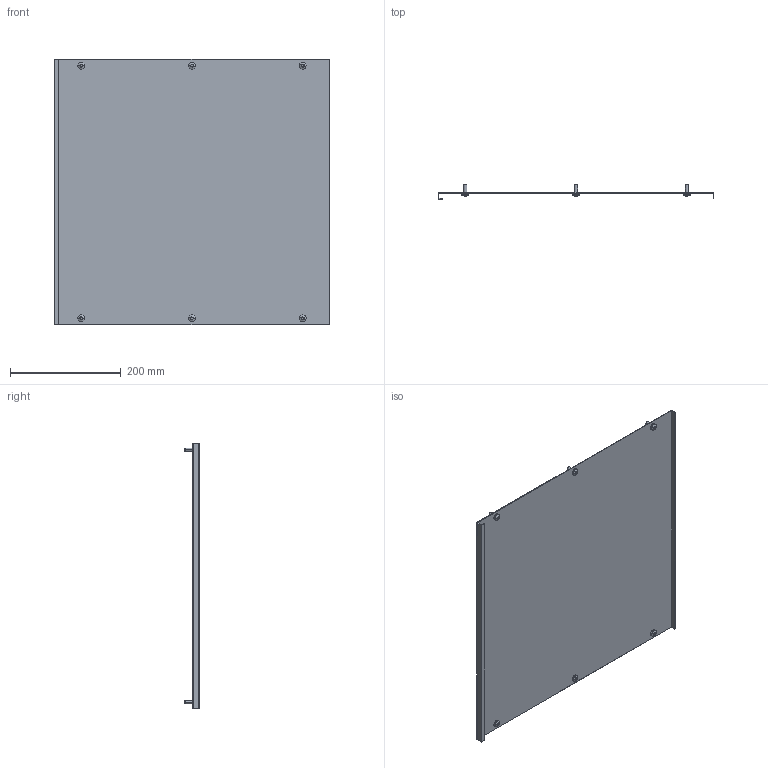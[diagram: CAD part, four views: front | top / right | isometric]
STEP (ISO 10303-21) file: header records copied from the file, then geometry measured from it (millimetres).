
FILE_DESCRIPTION (( 'STEP AP214' ), '1' );
FILE_NAME ('FO-00-PVS-050-060 Ïëàñòðîí ãëóõîé âíóòðåííèé 500õ600.STEP', '2025-09-30T07:40:12', ( '' ), ( '' ), 'SwSTEP 2.0', 'SolidWorks 2023', '' );
FILE_SCHEMA (( 'AUTOMOTIVE_DESIGN' ));
Length unit declared in the file: millimetre
Products named in the file (3): FO-00-PVS-050-060 Пластрон глухой внутренний 500х600; Винт M6x16 050 IEK
Assembly tree (3 placements, depth 2):
  FO-00-PVS-050-060 Пластрон глухой внутренний 500х600
    FO-00-PVS-050-060 Пластрон глухой внутренний 500х600
    Винт M6x16 050 IEK  x2
Bounding box: 498 x 27 x 479 mm (x, y, z)
Volume: 380760.8 mm3; surface area: 508574.7 mm2
Topology: 7 solids, 7 shells, 214 faces, 558 edges, 364 vertices
Faces by surface type: cylinder 132, plane 52, cone 18, bspline 12
Entity records: 4464 total; most frequent: CARTESIAN_POINT 1022, ORIENTED_EDGE 708, DIRECTION 692, EDGE_CURVE 354, AXIS2_PLACEMENT_3D 256, VERTEX_POINT 232, LINE 180, VECTOR 180
